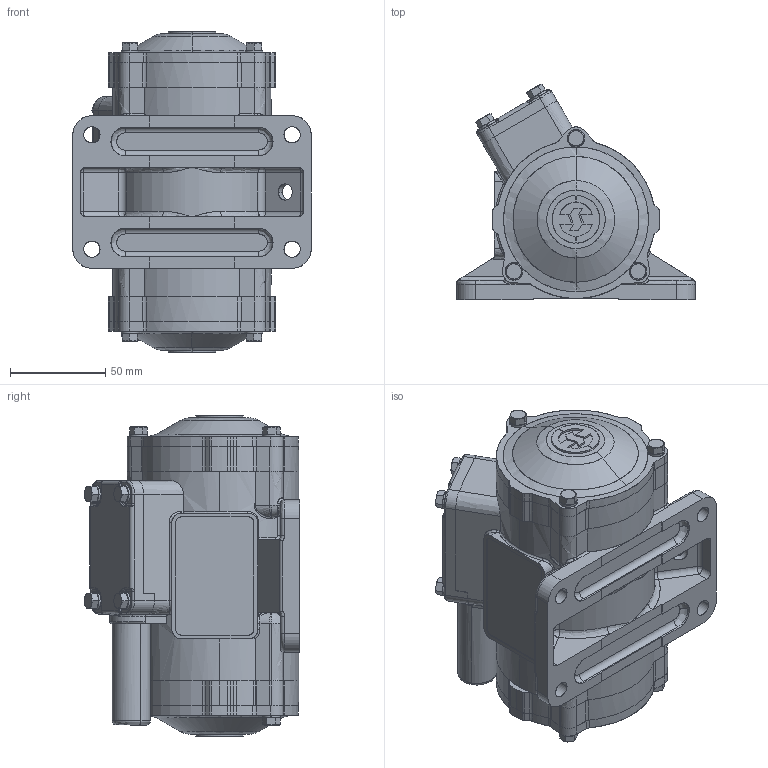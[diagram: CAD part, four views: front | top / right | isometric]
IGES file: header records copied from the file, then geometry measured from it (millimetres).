
Start section: SolidWorks IGES file using analytic representation for surfaces
Global section: file name: V:\WORK\08133\HP 寸法図\振動モータ\KM2.8-2PB\IGS_STEPファイル\KM2.8-2PB.IGS; native system: SolidWorks 2018; preprocessor: SolidWorks 2018; author: n-udagawa; date: 230213.144627; units: millimetre
Bounding box: 125 x 112.96 x 168 mm (x, y, z)
Surface area: 89895.3 mm2 (no closed solid volume)
Topology: 0 solids, 0 shells, 942 faces, 12997 edges, 15351 vertices
Faces by surface type: bspline 924, revolution 18
